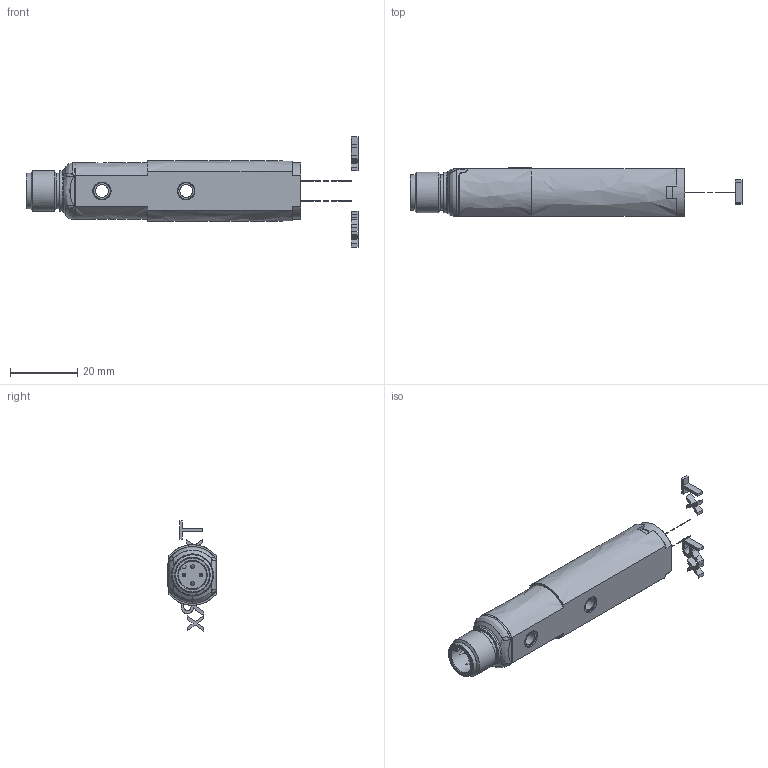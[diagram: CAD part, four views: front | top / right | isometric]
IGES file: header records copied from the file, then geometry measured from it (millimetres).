
Global section: file name: D:\TMP\DSD-0031.igs; preprocessor: I-DEAS 3D IGES Translator 11; date: 20060606.172612; units: millimetre
Bounding box: 98.55 x 14.3 x 32.67 mm (x, y, z)
Volume: 91.1 mm3; surface area: 5906.4 mm2
Topology: 8 solids, 8 shells, 257 faces, 1319 edges, 1199 vertices
Faces by surface type: bspline 257
